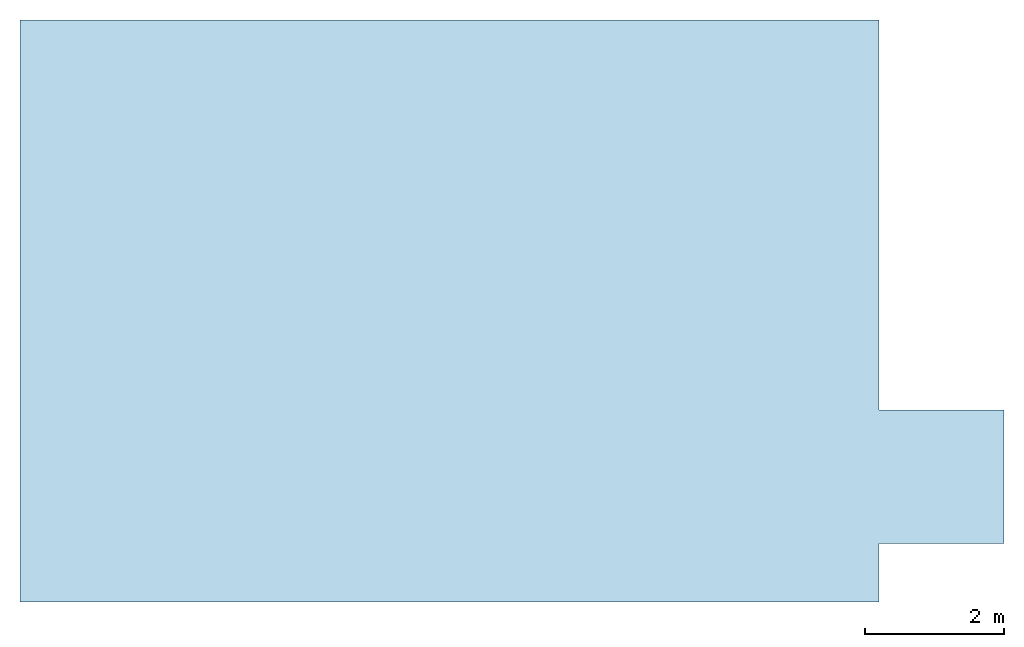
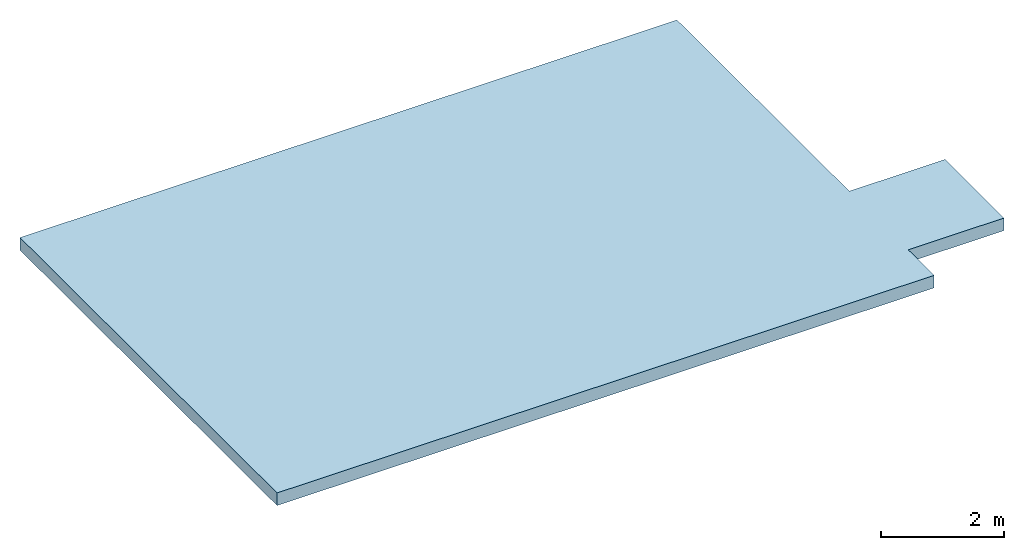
# One storey: 1 slab.
"""IFC2X3 building model written with IfcOpenShell, lengths in metres."""

from ifc_helpers import new_model, entity, si_unit, converted_unit, money_unit, direction, frame, origin_with_axes, place, context, subcontext, project, spatial, polyline, outline, extrude, material, layer, layer_set, layer_usage, type_object, element, save


model = new_model("IFC2X3")

# Units and contexts
model_context = context("Model", 3, precision=1e-05, world=origin_with_axes(), true_north=direction((0.0, 1.0)))
body_context = subcontext(model_context, "Body", "Model", "MODEL_VIEW")
ifc_project = project(units=[si_unit("LENGTHUNIT", "METRE"), si_unit("AREAUNIT", "SQUARE_METRE"), si_unit("VOLUMEUNIT", "CUBIC_METRE"), converted_unit("PLANEANGLEUNIT", "DEGREE", entity("IfcPlaneAngleMeasure", 0.0174532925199), si_unit("PLANEANGLEUNIT", "RADIAN"), dimensions=[0, 0, 0, 0, 0, 0, 0]), si_unit("SOLIDANGLEUNIT", "STERADIAN"), money_unit("EUR"), converted_unit("TIMEUNIT", "Year", entity("IfcTimeMeasure", 31556926.0), si_unit("TIMEUNIT", "SECOND"), dimensions=[0, 0, 0, 0, 0, 0, 0]), si_unit("MASSUNIT", "GRAM"), si_unit("THERMODYNAMICTEMPERATUREUNIT", "DEGREE_CELSIUS"), si_unit("LUMINOUSINTENSITYUNIT", "LUMEN")], contexts=[model_context])

# Site, building, storey
site_placement = place(None, origin_with_axes())
site = spatial("IfcSite", under=ifc_project, at=site_placement, Name="Site", CompositionType="ELEMENT")
building_placement = place(site_placement, origin_with_axes())
building = spatial("IfcBuilding", under=site, at=building_placement, Name="Bâtiment", CompositionType="ELEMENT")
storey_placement = place(building_placement, frame((0.0, 0.0, 5.4), z_axis=(0.0, 0.0, 1.0), x_axis=(1.0, 0.0, 0.0)))
storey = spatial("IfcBuildingStorey", under=building, at=storey_placement, Name="TT", CompositionType="ELEMENT", Elevation=5.4)

# Slab
ifc_material = material(Name="GENERIQUE - STRUCTURE")
ifc_layer = layer(ifc_material, 0.25, ventilated="UNKNOWN")
ifc_layer_set = layer_set([ifc_layer], Name="GENERIQUE - STRUCTURE 0.25")
ifc_layer_usage = layer_usage(ifc_layer_set, "AXIS3", "NEGATIVE", 0.25)
slab_type = type_object("IfcSlabType", Name="GENERIQUE - STRUCTURE 250", PredefinedType="FLOOR")
slab_placement = place(storey_placement, frame((9.54602971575, 9.54705590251, 0.0), z_axis=(0.0, 0.0, 1.0), x_axis=(1.0, 0.0, 0.0)))
element("IfcSlab", 1, at=slab_placement, inside=storey, type_object=slab_type, material=ifc_layer_usage, Name="DC_BA_Isol-002", PredefinedType="FLOOR", context=body_context, shape_type="SweptSolid", body=[
    extrude(outline(polyline([(0.0, 0.0), (12.35, 0.0), (12.35, 0.84), (14.15, 0.84), (14.15, 2.76), (12.35, 2.76), (12.35, 8.37), (0.0, 8.37), (0.0, 0.0)])), frame((0.0, 0.0, -0.25), z_axis=(0.0, 0.0, 1.0), x_axis=(1.0, 0.0, 0.0)), (0.0, 0.0, 1.0), 0.25),
])

save(model, "model.ifc")
